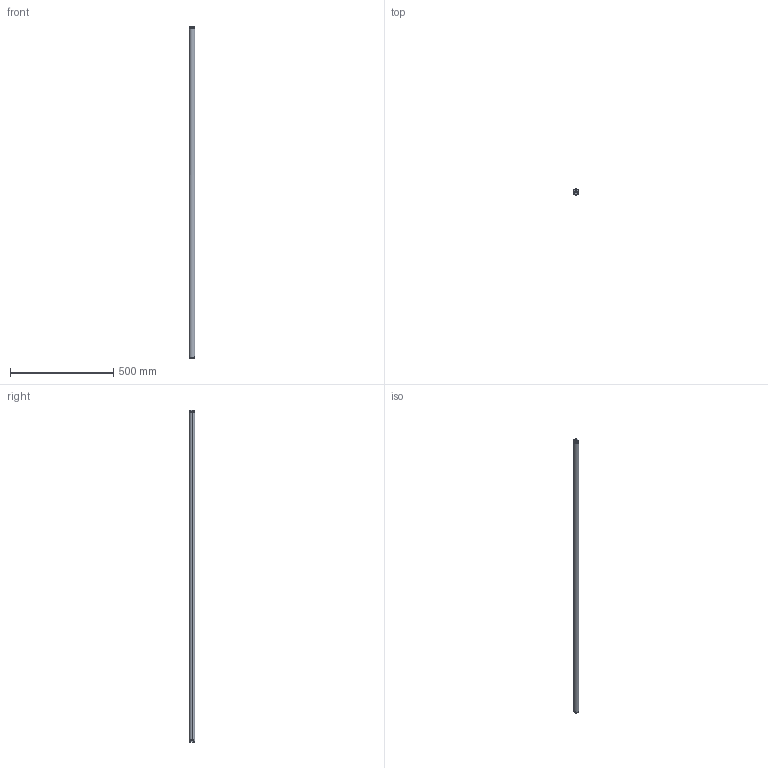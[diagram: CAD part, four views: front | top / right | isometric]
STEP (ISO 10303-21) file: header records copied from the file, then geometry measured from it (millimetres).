
FILE_DESCRIPTION (( 'STEP AP214' ), '1' );
FILE_NAME ('PL01-28x1610!1530.STEP', '2004-06-16T08:15:22', ( 'Mitarbeiter' ), ( 'Firma' ), 'SwSTEP 2.0', 'SolidWorks 2001287', '' );
FILE_SCHEMA (( 'AUTOMOTIVE_DESIGN' ));
Length unit declared in the file: millimetre
Products named in the file (1): PL01-28x1610!1530
Bounding box: 28 x 28 x 1610 mm (x, y, z)
Volume: 987961.1 mm3; surface area: 143579.8 mm2
Topology: 1 solids, 1 shells, 41 faces, 104 edges, 68 vertices
Faces by surface type: plane 15, cylinder 10, torus 8, cone 8
Entity records: 1353 total; most frequent: CARTESIAN_POINT 374, ORIENTED_EDGE 208, DIRECTION 192, EDGE_CURVE 104, AXIS2_PLACEMENT_3D 78, VERTEX_POINT 68, EDGE_LOOP 44, ADVANCED_FACE 41
